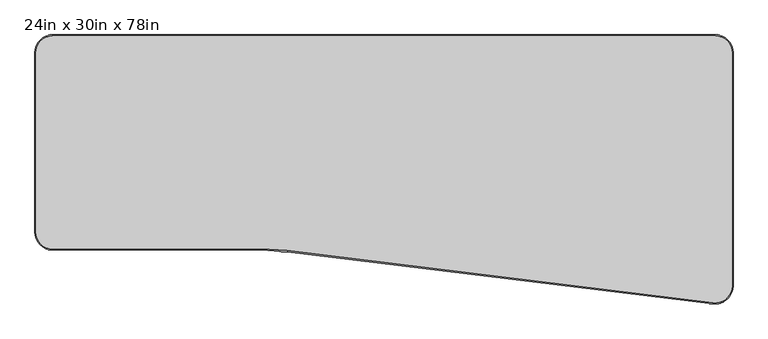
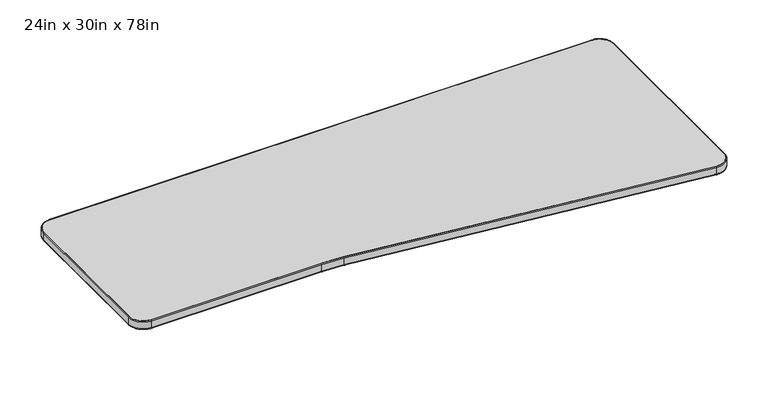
"""IFC4 building model written with IfcOpenShell, lengths in millimetres: furniture geometry, Steelcase - Answer Solution - Universal Table - Transition - Right : 24in x 30in x 78in."""

from ifc_helpers import new_model, si_unit, point, frame, frame_2d, origin, place, context, project, spatial, polyline, circle_curve, ellipse_curve, trimmed, segment, composite_curve, outline, extrude, source, transform, mapped, element, save
from ifc_brep_helpers import plane_surface, cylinder_surface, revolved_surface, advanced_brep


def furniture_24in_x_30in_x_78in_2ef61e4b(model_context):
    return source(origin(), model_context, "Body", "SolidModel", [
        extrude(outline(composite_curve([segment(polyline([(50.8000015, -3.0479999), (1924.05, -3.0479999)]), True, "CONTINUOUS"), segment(trimmed(circle_curve(frame_2d((1924.05, -50.8000271)), 47.7520271), [point((1924.05, -3.0479999))], [point((1971.8020271, -50.8000271))], False, "CARTESIAN"), True, "CONTINUOUS"), segment(polyline([(1971.8020271, -50.8000271), (1971.8020271, -711.1999758)]), True, "CONTINUOUS"), segment(trimmed(circle_curve(frame_2d((1923.967308, -711.4293394)), 47.835269), [point((1971.8020271, -711.1999758))], [point((1918.1376552, -758.9080515))], False, "CARTESIAN"), True, "CONTINUOUS"), segment(polyline([(1918.1376552, -758.9080515), (714.3280552, -611.0988184)]), True, "CONTINUOUS"), segment(trimmed(circle_curve(frame_2d((639.9393929, -1216.9458543)), 610.3968414), [point((714.3280552, -611.0988184))], [point((639.8259893, -606.5490234))], True, "CARTESIAN"), True, "CONTINUOUS"), segment(polyline([(639.8259893, -606.5490234), (50.8000015, -606.5490234)]), True, "CONTINUOUS"), segment(trimmed(circle_curve(frame_2d((50.8000015, -558.7970219)), 47.7520016), [point((50.8000015, -606.5490234))], [point((3.0479999, -558.7970219))], False, "CARTESIAN"), True, "CONTINUOUS"), segment(polyline([(3.0479999, -558.7970219), (3.0479999, -50.8000015)]), True, "CONTINUOUS"), segment(trimmed(circle_curve(frame_2d((50.8000015, -50.8000015)), 47.7520016), [point((3.0479999, -50.8000015))], [point((50.8000015, -3.0479999))], False, "CARTESIAN"), True, "CONTINUOUS")], self_intersect=False)), frame((0.0, 0.0, 668.274), z_axis=(0.0, 0.0, 1.0), x_axis=(1.0, 0.0, 0.0)), (0.0, 0.0, 1.0), 30.0481659),
        advanced_brep(
        [(714.3280552, -611.098818, 668.1439926), (639.8259893, -606.5490231, 668.1439926), (639.8259893, -606.5490231, 698.3221659), (714.3280552, -611.098818, 698.3221659), (713.9562346, -614.1270538, 671.19497), (639.8265562, -609.6000003, 671.19497), (713.9562346, -614.1270538, 695.2711886), (639.8265562, -609.6000003, 695.2711886), (1917.5104635, -758.8310417, 698.3221659), (1917.5104635, -758.8310417, 668.1439926), (1917.1386429, -761.8592775, 671.19497), (1917.1386429, -761.8592775, 695.2711886), (1971.8020268, -710.7979241, 668.1439926), (1971.8020268, -710.7979241, 698.3221659), (1974.8530041, -710.7979241, 671.19497), (1974.8530041, -710.7979241, 695.2711886), (1971.8020268, -50.8000271, 698.3221659), (1971.8020268, -50.8000271, 668.1439926), (1974.8530041, -50.8000271, 671.19497), (1974.8530041, -50.8000271, 695.2711886), (1924.05, -3.0480003, 668.1439926), (1924.05, -3.0480003, 698.3221659), (1924.05, 0.002977, 671.19497), (1924.05, 0.002977, 695.2711886), (50.8000015, -3.0480003, 698.3221659), (50.8000015, -3.0480003, 668.1439926), (50.8000015, 0.002977, 671.19497), (50.8000015, 0.002977, 695.2711886), (3.0480003, -50.8000015, 668.1439926), (3.0480003, -50.8000015, 698.3221659), (-0.002977, -50.8000015, 671.19497), (-0.002977, -50.8000015, 695.2711886), (3.0480003, -558.7970219, 698.3221659), (3.0480003, -558.7970219, 668.1439926), (-0.002977, -558.7970219, 671.19497), (-0.002977, -558.7970219, 695.2711886), (50.8000015, -606.5490231, 668.1439926), (50.8000015, -606.5490231, 698.3221659), (50.8000015, -609.6000004, 671.19497), (50.8000015, -609.6000004, 695.2711886)],
        [
            (0, 1, circle_curve(frame((639.9393929, -1216.9458543, 668.1439926), z_axis=(0.0, 0.0, 1.0), x_axis=(-0.00018578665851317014, 0.9999999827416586, 0.0)), 610.3968418)),
            (1, 2),
            (2, 3, circle_curve(frame((639.9393929, -1216.9458543, 698.3221659), z_axis=(0.0, 0.0, -1.0), x_axis=(-0.00018578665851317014, 0.9999999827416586, 0.0)), 610.3968418)),
            (3, 0),
            (4, 5, circle_curve(frame((639.9393929, -1216.9458543, 671.19497), z_axis=(0.0, 0.0, 1.0), x_axis=(-0.00018578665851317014, 0.9999999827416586, 0.0)), 607.3458645)),
            (5, 1, circle_curve(frame((639.8259893, -606.5490231, 671.19497), z_axis=(0.9999999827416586, 0.00018578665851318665, 0.0), x_axis=(-0.00018578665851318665, 0.9999999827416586, 0.0)), 3.0509773)),
            (0, 4, circle_curve(frame((714.3280552, -611.098818, 671.19497), z_axis=(-0.9925461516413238, 0.12186934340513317, 0.0), x_axis=(0.12186934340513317, 0.9925461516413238, 0.0)), 3.0509773)),
            (6, 7, circle_curve(frame((639.9393929, -1216.9458543, 695.2711886), z_axis=(0.0, 0.0, 1.0), x_axis=(-0.00018578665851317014, 0.9999999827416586, 0.0)), 607.3458645)),
            (7, 5),
            (4, 6),
            (2, 7, circle_curve(frame((639.8259893, -606.5490231, 695.2711886), z_axis=(0.9999999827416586, 0.00018578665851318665, 0.0), x_axis=(-0.00018578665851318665, 0.9999999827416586, 0.0)), 3.0509773)),
            (6, 3, circle_curve(frame((714.3280552, -611.098818, 695.2711886), z_axis=(-0.9925461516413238, 0.12186934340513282, 0.0), x_axis=(0.12186934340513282, 0.9925461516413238, 0.0)), 3.0509773)),
            (3, 8),
            (8, 9),
            (9, 0),
            (9, 10, circle_curve(frame((1917.5104635, -758.8310417, 671.19497), z_axis=(-0.9925461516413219, 0.12186934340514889, 0.0), x_axis=(0.12186934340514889, 0.9925461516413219, 0.0)), 3.0509773)),
            (10, 4),
            (10, 11),
            (11, 6),
            (11, 8, circle_curve(frame((1917.5104635, -758.8310417, 695.2711886), z_axis=(-0.9925461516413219, 0.12186934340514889, 0.0), x_axis=(0.12186934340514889, 0.9925461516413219, 0.0)), 3.0509773)),
            (12, 9, circle_curve(frame((1923.4081888, -710.7979241, 668.1439926), z_axis=(0.0, 0.0, -1.0), x_axis=(-0.1218693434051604, -0.9925461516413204, 0.0)), 48.393838)),
            (8, 13, circle_curve(frame((1923.4081888, -710.7979241, 698.3221659), z_axis=(0.0, 0.0, 1.0), x_axis=(-0.1218693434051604, -0.9925461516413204, 0.0)), 48.393838)),
            (13, 12),
            (14, 10, circle_curve(frame((1923.4081888, -710.7979241, 671.19497), z_axis=(0.0, 0.0, -1.0), x_axis=(-0.1218693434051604, -0.9925461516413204, 0.0)), 51.4448153)),
            (12, 14, circle_curve(frame((1971.8020268, -710.7979241, 671.19497), z_axis=(0.0, -1.0, 0.0), x_axis=(-1.0, 0.0, 0.0)), 3.0509773)),
            (15, 11, circle_curve(frame((1923.4081888, -710.7979241, 695.2711886), z_axis=(0.0, 0.0, -1.0), x_axis=(-0.1218693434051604, -0.9925461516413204, 0.0)), 51.4448153)),
            (14, 15),
            (15, 13, circle_curve(frame((1971.8020268, -710.7979241, 695.2711886), z_axis=(0.0, -1.0, 0.0), x_axis=(-1.0, 0.0, 0.0)), 3.0509773)),
            (13, 16),
            (16, 17),
            (17, 12),
            (17, 18, circle_curve(frame((1971.8020268, -50.8000271, 671.19497), z_axis=(0.0, -1.0, 0.0), x_axis=(-1.0, 0.0, 0.0)), 3.0509773)),
            (18, 14),
            (18, 19),
            (19, 15),
            (19, 16, circle_curve(frame((1971.8020268, -50.8000271, 695.2711886), z_axis=(0.0, -1.0, 0.0), x_axis=(-1.0, 0.0, 0.0)), 3.0509773)),
            (20, 17, circle_curve(frame((1924.05, -50.8000271, 668.1439926), z_axis=(0.0, 0.0, -1.0), x_axis=(1.0, 0.0, 0.0)), 47.7520268)),
            (16, 21, circle_curve(frame((1924.05, -50.8000271, 698.3221659), z_axis=(0.0, 0.0, 1.0), x_axis=(1.0, 0.0, 0.0)), 47.7520268)),
            (21, 20),
            (22, 18, circle_curve(frame((1924.05, -50.8000271, 671.19497), z_axis=(0.0, 0.0, -1.0), x_axis=(1.0, 0.0, 0.0)), 50.8030041)),
            (20, 22, circle_curve(frame((1924.05, -3.0480003, 671.19497), z_axis=(1.0, 0.0, 0.0), x_axis=(0.0, -1.0, 0.0)), 3.0509773)),
            (23, 19, circle_curve(frame((1924.05, -50.8000271, 695.2711886), z_axis=(0.0, 0.0, -1.0), x_axis=(1.0, 0.0, 0.0)), 50.8030041)),
            (22, 23),
            (23, 21, circle_curve(frame((1924.05, -3.0480003, 695.2711886), z_axis=(1.0, 0.0, 0.0), x_axis=(0.0, -1.0, 0.0)), 3.0509773)),
            (21, 24),
            (24, 25),
            (25, 20),
            (25, 26, circle_curve(frame((50.8000015, -3.0480003, 671.19497), z_axis=(1.0, 0.0, 0.0), x_axis=(0.0, -1.0, 0.0)), 3.0509773)),
            (26, 22),
            (26, 27),
            (27, 23),
            (27, 24, circle_curve(frame((50.8000015, -3.0480003, 695.2711886), z_axis=(1.0, 0.0, 0.0), x_axis=(0.0, -1.0, 0.0)), 3.0509773)),
            (28, 25, circle_curve(frame((50.8000015, -50.8000015, 668.1439926), z_axis=(0.0, 0.0, -1.0), x_axis=(0.0, 1.0, 0.0)), 47.7520012)),
            (24, 29, circle_curve(frame((50.8000015, -50.8000015, 698.3221659), z_axis=(0.0, 0.0, 1.0), x_axis=(0.0, 1.0, 0.0)), 47.7520012)),
            (29, 28),
            (30, 26, circle_curve(frame((50.8000015, -50.8000015, 671.19497), z_axis=(0.0, 0.0, -1.0), x_axis=(0.0, 1.0, 0.0)), 50.8029785)),
            (28, 30, circle_curve(frame((3.0480003, -50.8000015, 671.19497), z_axis=(0.0, 1.0, 0.0), x_axis=(1.0, 0.0, 0.0)), 3.0509773)),
            (31, 27, circle_curve(frame((50.8000015, -50.8000015, 695.2711886), z_axis=(0.0, 0.0, -1.0), x_axis=(0.0, 1.0, 0.0)), 50.8029785)),
            (30, 31),
            (31, 29, circle_curve(frame((3.0480003, -50.8000015, 695.2711886), z_axis=(0.0, 1.0, 0.0), x_axis=(1.0, 0.0, 0.0)), 3.0509773)),
            (29, 32),
            (32, 33),
            (33, 28),
            (33, 34, circle_curve(frame((3.0480003, -558.7970219, 671.19497), z_axis=(0.0, 1.0, 0.0), x_axis=(1.0, 0.0, 0.0)), 3.0509773)),
            (34, 30),
            (34, 35),
            (35, 31),
            (35, 32, circle_curve(frame((3.0480003, -558.7970219, 695.2711886), z_axis=(0.0, 1.0, 0.0), x_axis=(1.0, 0.0, 0.0)), 3.0509773)),
            (36, 33, circle_curve(frame((50.8000015, -558.7970219, 668.1439926), z_axis=(0.0, 0.0, -1.0), x_axis=(-1.0, 0.0, 0.0)), 47.7520012)),
            (32, 37, circle_curve(frame((50.8000015, -558.7970219, 698.3221659), z_axis=(0.0, 0.0, 1.0), x_axis=(-1.0, 0.0, 0.0)), 47.7520012)),
            (37, 36),
            (38, 34, circle_curve(frame((50.8000015, -558.7970219, 671.19497), z_axis=(0.0, 0.0, -1.0), x_axis=(-1.0, 0.0, 0.0)), 50.8029785)),
            (36, 38, circle_curve(frame((50.8000015, -606.5490231, 671.19497), z_axis=(-1.0, 0.0, 0.0), x_axis=(0.0, 1.0, 0.0)), 3.0509773)),
            (39, 35, circle_curve(frame((50.8000015, -558.7970219, 695.2711886), z_axis=(0.0, 0.0, -1.0), x_axis=(-1.0, 0.0, 0.0)), 50.8029785)),
            (38, 39),
            (39, 37, circle_curve(frame((50.8000015, -606.5490231, 695.2711886), z_axis=(-1.0, 0.0, 0.0), x_axis=(0.0, 1.0, 0.0)), 3.0509773)),
            (37, 2),
            (1, 36),
            (5, 38),
            (7, 39),
        ],
        [
            cylinder_surface(frame((639.9393929, -1216.9458543, 0.0), z_axis=(0.0, 0.0, -1.0), x_axis=(-0.00018578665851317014, 0.9999999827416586, 0.0)), 610.3968418),
            revolved_surface(trimmed(ellipse_curve(frame((639.8259893, -606.5490231, 671.19497), z_axis=(-0.9999999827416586, -0.00018578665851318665, 0.0), x_axis=(-0.00018578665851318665, 0.9999999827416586, 0.0)), 3.0509773, 3.0509773), [point((639.8259893, -606.5490231, 668.1439926))], [point((639.8265562, -609.6000003, 671.19497))], True, "CARTESIAN"), (639.9393929, -1216.9458543, 0.0), (0.0, 0.0, -1.0)),
            revolved_surface(polyline([(639.8265561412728, -609.6000002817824, 671.19497), (639.8265561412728, -609.6000002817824, 695.2711886)]), (639.9393929, -1216.9458543, 0.0), (0.0, 0.0, -1.0)),
            revolved_surface(trimmed(ellipse_curve(frame((639.8259893, -606.5490231, 695.2711886), z_axis=(-0.9999999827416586, -0.00018578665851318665, 0.0), x_axis=(-0.00018578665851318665, 0.9999999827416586, 0.0)), 3.0509773, 3.0509773), [point((639.8265562, -609.6000003, 695.2711886))], [point((639.8259893, -606.5490231, 698.3221659))], True, "CARTESIAN"), (639.9393929, -1216.9458543, 0.0), (0.0, 0.0, -1.0)),
            plane_surface(frame((714.3280552, -611.098818, 698.3221659), z_axis=(0.12186934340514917, 0.9925461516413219, 0.0), x_axis=(0.9925461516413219, -0.12186934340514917, 0.0))),
            cylinder_surface(frame((714.3280552, -611.098818, 671.19497), z_axis=(-0.9925461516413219, 0.12186934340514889, 0.0), x_axis=(0.12186934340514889, 0.9925461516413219, 0.0)), 3.0509773),
            plane_surface(frame((713.9562346, -614.1270538, 671.19497), z_axis=(-0.12186934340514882, -0.9925461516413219, 0.0), x_axis=(0.9925461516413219, -0.12186934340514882, 0.0))),
            cylinder_surface(frame((714.3280552, -611.098818, 695.2711886), z_axis=(-0.9925461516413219, 0.12186934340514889, 0.0), x_axis=(0.12186934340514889, 0.9925461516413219, 0.0)), 3.0509773),
            revolved_surface(polyline([(1917.5104635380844, -758.8310417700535, 698.3221659), (1917.5104635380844, -758.8310417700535, 668.1439926)]), (1923.4081888, -710.7979241, 0.0), (0.0, 0.0, 1.0)),
            revolved_surface(trimmed(ellipse_curve(frame((1917.5104635, -758.8310417, 671.19497), z_axis=(-0.9925461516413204, 0.12186934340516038, 0.0), x_axis=(0.12186934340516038, 0.9925461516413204, 0.0)), 3.0509773, 3.0509773), [point((1917.5104635, -758.8310417, 668.1439926))], [point((1917.1386429, -761.8592775, 671.19497))], True, "CARTESIAN"), (1923.4081888, -710.7979241, 0.0), (0.0, 0.0, 1.0)),
            cylinder_surface(frame((1923.4081888, -710.7979241, 0.0), z_axis=(0.0, 0.0, 1.0), x_axis=(-0.1218693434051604, -0.9925461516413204, 0.0)), 51.4448153),
            revolved_surface(trimmed(ellipse_curve(frame((1917.5104635, -758.8310417, 695.2711886), z_axis=(-0.9925461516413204, 0.12186934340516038, 0.0), x_axis=(0.12186934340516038, 0.9925461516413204, 0.0)), 3.0509773, 3.0509773), [point((1917.1386429, -761.8592775, 695.2711886))], [point((1917.5104635, -758.8310417, 698.3221659))], True, "CARTESIAN"), (1923.4081888, -710.7979241, 0.0), (0.0, 0.0, 1.0)),
            plane_surface(frame((1971.8020268, -710.7979241, 698.3221659), z_axis=(-1.0, 0.0, 0.0), x_axis=(0.0, 1.0, 0.0))),
            cylinder_surface(frame((1971.8020268, -710.7979241, 671.19497), z_axis=(0.0, -1.0, 0.0), x_axis=(-1.0, 0.0, 0.0)), 3.0509773),
            plane_surface(frame((1974.8530041, -710.7979241, 671.19497), z_axis=(1.0, 0.0, 0.0), x_axis=(0.0, 1.0, 0.0))),
            cylinder_surface(frame((1971.8020268, -710.7979241, 695.2711886), z_axis=(0.0, -1.0, 0.0), x_axis=(-1.0, 0.0, 0.0)), 3.0509773),
            revolved_surface(polyline([(1971.8020268, -50.8000271, 698.3221659), (1971.8020268, -50.8000271, 668.1439926)]), (1924.05, -50.8000271, 0.0), (0.0, 0.0, 1.0)),
            revolved_surface(trimmed(ellipse_curve(frame((1971.8020268, -50.8000271, 671.19497), z_axis=(0.0, -1.0, 0.0), x_axis=(-1.0, 0.0, 0.0)), 3.0509773, 3.0509773), [point((1971.8020268, -50.8000271, 668.1439926))], [point((1974.8530041, -50.8000271, 671.19497))], True, "CARTESIAN"), (1924.05, -50.8000271, 0.0), (0.0, 0.0, 1.0)),
            cylinder_surface(frame((1924.05, -50.8000271, 0.0), z_axis=(0.0, 0.0, 1.0), x_axis=(1.0, 0.0, 0.0)), 50.8030041),
            revolved_surface(trimmed(ellipse_curve(frame((1971.8020268, -50.8000271, 695.2711886), z_axis=(0.0, -1.0, 0.0), x_axis=(-1.0, 0.0, 0.0)), 3.0509773, 3.0509773), [point((1974.8530041, -50.8000271, 695.2711886))], [point((1971.8020268, -50.8000271, 698.3221659))], True, "CARTESIAN"), (1924.05, -50.8000271, 0.0), (0.0, 0.0, 1.0)),
            plane_surface(frame((1924.05, -3.0480003, 698.3221659), z_axis=(0.0, -1.0, 0.0), x_axis=(-1.0, 0.0, 0.0))),
            cylinder_surface(frame((1924.05, -3.0480003, 671.19497), z_axis=(1.0, 0.0, 0.0), x_axis=(0.0, -1.0, 0.0)), 3.0509773),
            plane_surface(frame((1924.05, 0.002977, 671.19497), z_axis=(0.0, 1.0, 0.0), x_axis=(-1.0, 0.0, 0.0))),
            cylinder_surface(frame((1924.05, -3.0480003, 695.2711886), z_axis=(1.0, 0.0, 0.0), x_axis=(0.0, -1.0, 0.0)), 3.0509773),
            revolved_surface(polyline([(50.8000015, -3.048000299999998, 698.3221659), (50.8000015, -3.048000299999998, 668.1439926)]), (50.8000015, -50.8000015, 0.0), (0.0, 0.0, 1.0)),
            revolved_surface(trimmed(ellipse_curve(frame((50.8000015, -3.0480003, 671.19497), z_axis=(1.0, 0.0, 0.0), x_axis=(0.0, -1.0, 0.0)), 3.0509773, 3.0509773), [point((50.8000015, -3.0480003, 668.1439926))], [point((50.8000015, 0.002977, 671.19497))], True, "CARTESIAN"), (50.8000015, -50.8000015, 0.0), (0.0, 0.0, 1.0)),
            cylinder_surface(frame((50.8000015, -50.8000015, 0.0), z_axis=(0.0, 0.0, 1.0), x_axis=(0.0, 1.0, 0.0)), 50.8029785),
            revolved_surface(trimmed(ellipse_curve(frame((50.8000015, -3.0480003, 695.2711886), z_axis=(1.0, 0.0, 0.0), x_axis=(0.0, -1.0, 0.0)), 3.0509773, 3.0509773), [point((50.8000015, 0.002977, 695.2711886))], [point((50.8000015, -3.0480003, 698.3221659))], True, "CARTESIAN"), (50.8000015, -50.8000015, 0.0), (0.0, 0.0, 1.0)),
            plane_surface(frame((3.0480003, -50.8000015, 698.3221659), z_axis=(1.0, 0.0, 0.0), x_axis=(0.0, -1.0, 0.0))),
            cylinder_surface(frame((3.0480003, -50.8000015, 671.19497), z_axis=(0.0, 1.0, 0.0), x_axis=(1.0, 0.0, 0.0)), 3.0509773),
            plane_surface(frame((-0.002977, -50.8000015, 671.19497), z_axis=(-1.0, 0.0, 0.0), x_axis=(0.0, -1.0, 0.0))),
            cylinder_surface(frame((3.0480003, -50.8000015, 695.2711886), z_axis=(0.0, 1.0, 0.0), x_axis=(1.0, 0.0, 0.0)), 3.0509773),
            revolved_surface(polyline([(3.048000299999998, -558.7970219, 698.3221659), (3.048000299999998, -558.7970219, 668.1439926)]), (50.8000015, -558.7970219, 0.0), (0.0, 0.0, 1.0)),
            revolved_surface(trimmed(ellipse_curve(frame((3.0480003, -558.7970219, 671.19497), z_axis=(0.0, 1.0, 0.0), x_axis=(1.0, 0.0, 0.0)), 3.0509773, 3.0509773), [point((3.0480003, -558.7970219, 668.1439926))], [point((-0.002977, -558.7970219, 671.19497))], True, "CARTESIAN"), (50.8000015, -558.7970219, 0.0), (0.0, 0.0, 1.0)),
            cylinder_surface(frame((50.8000015, -558.7970219, 0.0), z_axis=(0.0, 0.0, 1.0), x_axis=(-1.0, 0.0, 0.0)), 50.8029785),
            revolved_surface(trimmed(ellipse_curve(frame((3.0480003, -558.7970219, 695.2711886), z_axis=(0.0, 1.0, 0.0), x_axis=(1.0, 0.0, 0.0)), 3.0509773, 3.0509773), [point((-0.002977, -558.7970219, 695.2711886))], [point((3.0480003, -558.7970219, 698.3221659))], True, "CARTESIAN"), (50.8000015, -558.7970219, 0.0), (0.0, 0.0, 1.0)),
            plane_surface(frame((50.8000015, -606.5490231, 698.3221659), z_axis=(0.0, 1.0, 0.0), x_axis=(1.0, 0.0, 0.0))),
            cylinder_surface(frame((50.8000015, -606.5490231, 671.19497), z_axis=(-1.0, 0.0, 0.0), x_axis=(0.0, 1.0, 0.0)), 3.0509773),
            plane_surface(frame((50.8000015, -609.6000004, 671.19497), z_axis=(0.0, -1.0, 0.0), x_axis=(1.0, 0.0, 0.0))),
            cylinder_surface(frame((50.8000015, -606.5490231, 695.2711886), z_axis=(-1.0, 0.0, 0.0), x_axis=(0.0, 1.0, 0.0)), 3.0509773),
        ],
        [
            (0, [[1, 2, 3, 4]]),
            (1, [[5, 6, -1, 7]]),
            (2, [[8, 9, -5, 10]]),
            (3, [[-3, 11, -8, 12]]),
            (4, [[-4, 13, 14, 15]]),
            (5, [[-7, -15, 16, 17]]),
            (6, [[-10, -17, 18, 19]]),
            (7, [[-12, -19, 20, -13]]),
            (8, [[21, -14, 22, 23]]),
            (9, [[24, -16, -21, 25]]),
            (10, [[26, -18, -24, 27]]),
            (11, [[-22, -20, -26, 28]]),
            (12, [[-23, 29, 30, 31]]),
            (13, [[-25, -31, 32, 33]]),
            (14, [[-27, -33, 34, 35]]),
            (15, [[-28, -35, 36, -29]]),
            (16, [[37, -30, 38, 39]]),
            (17, [[40, -32, -37, 41]]),
            (18, [[42, -34, -40, 43]]),
            (19, [[-38, -36, -42, 44]]),
            (20, [[-39, 45, 46, 47]]),
            (21, [[-41, -47, 48, 49]]),
            (22, [[-43, -49, 50, 51]]),
            (23, [[-44, -51, 52, -45]]),
            (24, [[53, -46, 54, 55]]),
            (25, [[56, -48, -53, 57]]),
            (26, [[58, -50, -56, 59]]),
            (27, [[-54, -52, -58, 60]]),
            (28, [[-55, 61, 62, 63]]),
            (29, [[-57, -63, 64, 65]]),
            (30, [[-59, -65, 66, 67]]),
            (31, [[-60, -67, 68, -61]]),
            (32, [[69, -62, 70, 71]]),
            (33, [[72, -64, -69, 73]]),
            (34, [[74, -66, -72, 75]]),
            (35, [[-70, -68, -74, 76]]),
            (36, [[-71, 77, -2, 78]]),
            (37, [[-73, -78, -6, 79]]),
            (38, [[-75, -79, -9, 80]]),
            (39, [[-76, -80, -11, -77]]),
        ],
    ),
    ])


if __name__ == "__main__":
    model = new_model("IFC4")
    model_context = context("Model", 3, world=origin())
    ifc_project = project(units=[si_unit("LENGTHUNIT", "METRE", prefix="MILLI")], contexts=[model_context])
    site = spatial("IfcSite", under=ifc_project)
    building = spatial("IfcBuilding", under=site)
    placement = place(None, origin())
    furniture_24in_x_30in_x_78in_shape = furniture_24in_x_30in_x_78in_2ef61e4b(model_context)
    element("IfcFurniture", 1, ObjectType="Steelcase - Answer Solution - Universal Table - Transition - Right : 24in x 30in x 78in", at=placement, inside=building, context=model_context, shape_type="MappedRepresentation", body=[
        mapped(furniture_24in_x_30in_x_78in_shape, transform((0.0, 0.0, 0.0), x_axis=(1.0, 0.0, 0.0), y_axis=(0.0, 1.0, 0.0), z_axis=(0.0, 0.0, 1.0))),
    ])
    save(model, "model.ifc")
